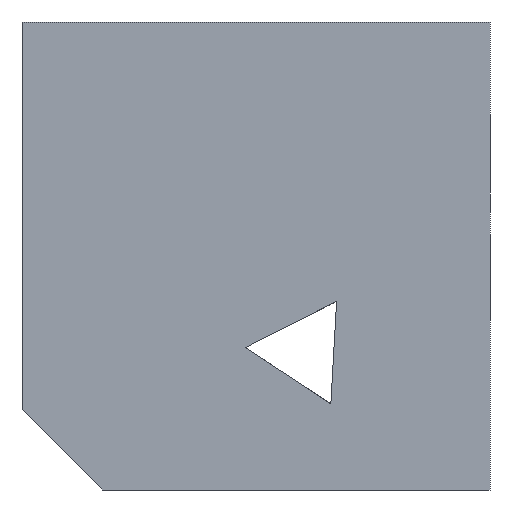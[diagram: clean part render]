
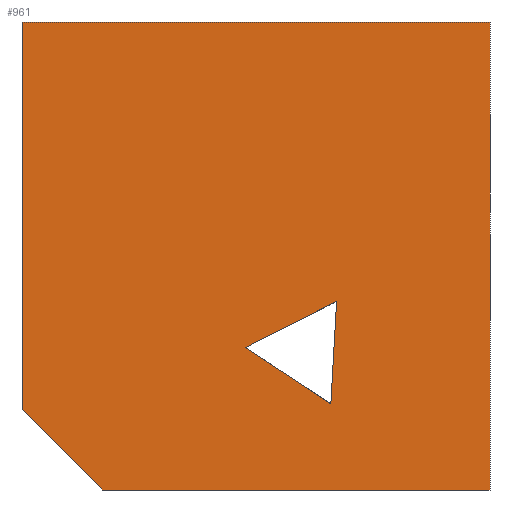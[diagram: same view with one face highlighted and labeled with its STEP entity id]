
A CAD part, left-side view. The second image highlights one B-rep face of the part: STEP entity #961.
In plain terms, the highlighted planar face has unit normal (-1, 0, 0).
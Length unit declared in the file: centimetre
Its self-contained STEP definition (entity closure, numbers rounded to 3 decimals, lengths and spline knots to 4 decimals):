
#5 = ORIENTED_EDGE ( 'NONE', *, *, #646, .F. ) ;
#34 = CARTESIAN_POINT ( 'NONE',  ( 0., 0., 1000. ) ) ;
#44 = DIRECTION ( 'NONE',  ( 1., 0., 0. ) ) ;
#73 = EDGE_CURVE ( 'NONE', #1567, #1349, #574, .T. ) ;
#118 = ORIENTED_EDGE ( 'NONE', *, *, #346, .T. ) ;
#171 = EDGE_LOOP ( 'NONE', ( #2051, #1135, #118 ) ) ;
#220 = VECTOR ( 'NONE', #1547, 100. ) ;
#222 = ORIENTED_EDGE ( 'NONE', *, *, #1958, .T. ) ;
#229 = EDGE_CURVE ( 'NONE', #1522, #1567, #1823, .T. ) ;
#237 = LINE ( 'NONE', #1318, #1644 ) ;
#324 = EDGE_CURVE ( 'NONE', #1522, #651, #1183, .T. ) ;
#346 = EDGE_CURVE ( 'NONE', #417, #1757, #237, .T. ) ;
#354 = DIRECTION ( 'NONE',  ( 0., -1., 0. ) ) ;
#412 = LINE ( 'NONE', #1075, #799 ) ;
#417 = VERTEX_POINT ( 'NONE', #565 ) ;
#431 = CARTESIAN_POINT ( 'NONE',  ( 0., 1000., 172.1995 ) ) ;
#464 = VECTOR ( 'NONE', #354, 100. ) ;
#467 = VECTOR ( 'NONE', #1500, 100. ) ;
#500 = DIRECTION ( 'NONE',  ( 0., -1., 0. ) ) ;
#565 = CARTESIAN_POINT ( 'NONE',  ( 0., 327.8191, 403.1051 ) ) ;
#574 = LINE ( 'NONE', #893, #220 ) ;
#635 = CARTESIAN_POINT ( 'NONE',  ( 0., 1000., 1000. ) ) ;
#646 = EDGE_CURVE ( 'NONE', #651, #1434, #1489, .T. ) ;
#651 = VERTEX_POINT ( 'NONE', #1511 ) ;
#675 = CARTESIAN_POINT ( 'NONE',  ( 0., 827.8005, 0. ) ) ;
#683 = CARTESIAN_POINT ( 'NONE',  ( 0., 1000., 1000. ) ) ;
#691 = DIRECTION ( 'NONE',  ( 0., 0., -1. ) ) ;
#718 = FACE_BOUND ( 'NONE', #171, .T. ) ;
#799 = VECTOR ( 'NONE', #1062, 100. ) ;
#893 = CARTESIAN_POINT ( 'NONE',  ( 0., 1000., 172.1995 ) ) ;
#933 = VECTOR ( 'NONE', #2067, 100. ) ;
#935 = LINE ( 'NONE', #1461, #2077 ) ;
#952 = LINE ( 'NONE', #1608, #933 ) ;
#961 = ADVANCED_FACE ( 'NONE', ( #718, #1358 ), #1698, .F. ) ;
#1009 = CARTESIAN_POINT ( 'NONE',  ( 0., 523.3303, 304.3759 ) ) ;
#1015 = EDGE_CURVE ( 'NONE', #1354, #417, #412, .T. ) ;
#1038 = CARTESIAN_POINT ( 'NONE',  ( 0., 340.0727, 184.4228 ) ) ;
#1062 = DIRECTION ( 'NONE',  ( 0., -0.893, 0.451 ) ) ;
#1075 = CARTESIAN_POINT ( 'NONE',  ( 0., 327.8191, 403.1051 ) ) ;
#1135 = ORIENTED_EDGE ( 'NONE', *, *, #1015, .T. ) ;
#1183 = LINE ( 'NONE', #683, #464 ) ;
#1192 = DIRECTION ( 'NONE',  ( 0., 0., -1. ) ) ;
#1212 = ORIENTED_EDGE ( 'NONE', *, *, #73, .T. ) ;
#1229 = ORIENTED_EDGE ( 'NONE', *, *, #229, .T. ) ;
#1318 = CARTESIAN_POINT ( 'NONE',  ( 0., 340.0727, 184.4228 ) ) ;
#1349 = VERTEX_POINT ( 'NONE', #675 ) ;
#1354 = VERTEX_POINT ( 'NONE', #1009 ) ;
#1358 = FACE_OUTER_BOUND ( 'NONE', #1521, .T. ) ;
#1408 = CARTESIAN_POINT ( 'NONE',  ( 0., 0., 0. ) ) ;
#1434 = VERTEX_POINT ( 'NONE', #1408 ) ;
#1445 = AXIS2_PLACEMENT_3D ( 'NONE', #1499, #44, #691 ) ;
#1461 = CARTESIAN_POINT ( 'NONE',  ( 0., 1000., 0. ) ) ;
#1462 = EDGE_CURVE ( 'NONE', #1757, #1354, #952, .T. ) ;
#1489 = LINE ( 'NONE', #34, #467 ) ;
#1499 = CARTESIAN_POINT ( 'NONE',  ( 0., 1000., 1000. ) ) ;
#1500 = DIRECTION ( 'NONE',  ( 0., 0., -1. ) ) ;
#1511 = CARTESIAN_POINT ( 'NONE',  ( 0., 0., 1000. ) ) ;
#1512 = CARTESIAN_POINT ( 'NONE',  ( 0., 1000., 1000. ) ) ;
#1521 = EDGE_LOOP ( 'NONE', ( #1229, #1212, #222, #5, #1835 ) ) ;
#1522 = VERTEX_POINT ( 'NONE', #635 ) ;
#1547 = DIRECTION ( 'NONE',  ( 0., -0.707, -0.707 ) ) ;
#1567 = VERTEX_POINT ( 'NONE', #431 ) ;
#1608 = CARTESIAN_POINT ( 'NONE',  ( 0., 523.3303, 304.3759 ) ) ;
#1644 = VECTOR ( 'NONE', #1969, 100. ) ;
#1698 = PLANE ( 'NONE',  #1445 ) ;
#1757 = VERTEX_POINT ( 'NONE', #1038 ) ;
#1823 = LINE ( 'NONE', #1512, #2018 ) ;
#1835 = ORIENTED_EDGE ( 'NONE', *, *, #324, .F. ) ;
#1958 = EDGE_CURVE ( 'NONE', #1349, #1434, #935, .T. ) ;
#1969 = DIRECTION ( 'NONE',  ( 0., 0.056, -0.998 ) ) ;
#2018 = VECTOR ( 'NONE', #1192, 100. ) ;
#2051 = ORIENTED_EDGE ( 'NONE', *, *, #1462, .T. ) ;
#2067 = DIRECTION ( 'NONE',  ( 0., 0.837, 0.548 ) ) ;
#2077 = VECTOR ( 'NONE', #500, 100. ) ;
